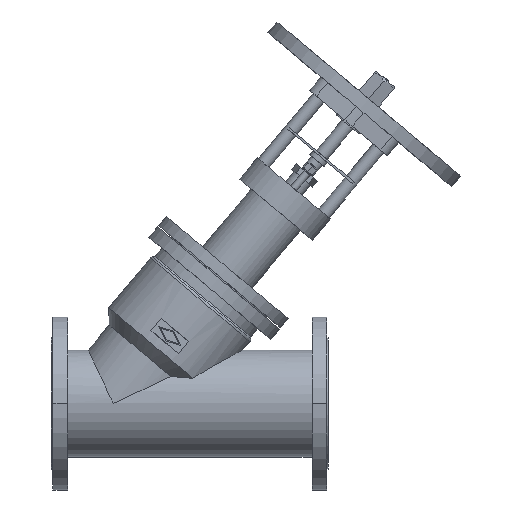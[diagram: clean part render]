
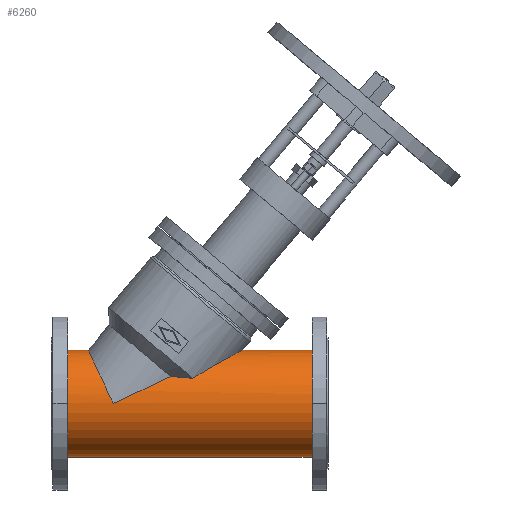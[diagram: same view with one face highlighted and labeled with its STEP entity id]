
A CAD part, top view. The second image highlights one B-rep face of the part: STEP entity #6260.
In plain terms, the highlighted cylindrical face has radius 116 mm (diameter 232 mm), a partial arc.
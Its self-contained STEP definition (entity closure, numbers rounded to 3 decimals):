
#110=CARTESIAN_POINT('',(306.433,54.608,
102.342));
#120=VERTEX_POINT('',#110);
#170=CARTESIAN_POINT('',(306.433,54.608,
102.342));
#180=CARTESIAN_POINT('',(301.494,54.783,
102.249));
#190=CARTESIAN_POINT('',(296.518,55.013,
102.126));
#200=CARTESIAN_POINT('',(284.08,55.75,
101.726));
#210=CARTESIAN_POINT('',(276.598,56.337,
101.405));
#220=CARTESIAN_POINT('',(265.761,57.466,
100.766));
#230=CARTESIAN_POINT('',(262.379,57.858,
100.542));
#240=CARTESIAN_POINT('',(259.01,58.293,
100.289));
#250=B_SPLINE_CURVE_WITH_KNOTS('',3,(#170,#180,#190,#200,#210,#220,#230,
#240),.UNSPECIFIED.,.F.,.F.,(4,2,2,4),(100.64,114.789
,135.904,145.514),.UNSPECIFIED.);
#260=CARTESIAN_POINT('',(259.01,58.293,
100.289));
#270=VERTEX_POINT('',#260);
#280=EDGE_CURVE('',#120,#270,#250,.T.);
#690=CARTESIAN_POINT('',(306.433,54.608,
102.342));
#700=CARTESIAN_POINT('',(310.314,57.074,
101.027));
#710=CARTESIAN_POINT('',(314.199,59.489,
99.624));
#720=CARTESIAN_POINT('',(323.768,65.335,
95.939));
#730=CARTESIAN_POINT('',(329.432,68.707,
93.555));
#740=CARTESIAN_POINT('',(340.574,75.218,
88.405));
#750=CARTESIAN_POINT('',(346.05,78.357,
85.639));
#760=CARTESIAN_POINT('',(356.7,84.377,
79.714));
#770=CARTESIAN_POINT('',(361.873,87.258,
76.556));
#780=CARTESIAN_POINT('',(369.806,91.632,
71.178));
#790=CARTESIAN_POINT('',(372.798,93.271,
69.025));
#800=CARTESIAN_POINT('',(378.719,96.495,
64.44));
#810=CARTESIAN_POINT('',(381.648,98.08,
62.009));
#820=CARTESIAN_POINT('',(387.333,101.144,
56.876));
#830=CARTESIAN_POINT('',(390.09,102.621,
54.174));
#840=CARTESIAN_POINT('',(395.328,105.418,
48.509));
#850=CARTESIAN_POINT('',(397.809,106.736,
45.545));
#860=CARTESIAN_POINT('',(402.391,109.164,
39.372));
#870=CARTESIAN_POINT('',(404.494,110.274,
36.161));
#880=CARTESIAN_POINT('',(408.221,112.238,
29.507));
#890=CARTESIAN_POINT('',(409.847,113.092,
26.064));
#900=CARTESIAN_POINT('',(412.524,114.496,
18.965));
#910=CARTESIAN_POINT('',(413.577,115.047,
15.308));
#920=CARTESIAN_POINT('',(415.014,115.799,
7.798));
#930=CARTESIAN_POINT('',(415.398,116.,3.944));
#940=CARTESIAN_POINT('',(415.398,116.,-3.944));
#950=CARTESIAN_POINT('',(415.014,115.799,
-7.798));
#960=CARTESIAN_POINT('',(413.577,115.047,
-15.308));
#970=CARTESIAN_POINT('',(412.524,114.496,
-18.965));
#980=CARTESIAN_POINT('',(409.847,113.092,
-26.064));
#990=CARTESIAN_POINT('',(408.221,112.238,
-29.507));
#1000=CARTESIAN_POINT('',(404.494,110.274,
-36.161));
#1010=CARTESIAN_POINT('',(402.391,109.164,
-39.372));
#1020=CARTESIAN_POINT('',(397.809,106.736,
-45.545));
#1030=CARTESIAN_POINT('',(395.328,105.418,
-48.509));
#1040=CARTESIAN_POINT('',(390.09,102.621,
-54.174));
#1050=CARTESIAN_POINT('',(387.333,101.144,
-56.876));
#1060=CARTESIAN_POINT('',(381.648,98.08,
-62.009));
#1070=CARTESIAN_POINT('',(378.719,96.495,
-64.44));
#1080=CARTESIAN_POINT('',(372.798,93.271,
-69.025));
#1090=CARTESIAN_POINT('',(369.806,91.632,
-71.178));
#1100=CARTESIAN_POINT('',(361.873,87.258,
-76.556));
#1110=CARTESIAN_POINT('',(356.7,84.377,
-79.714));
#1120=CARTESIAN_POINT('',(346.05,78.357,
-85.639));
#1130=CARTESIAN_POINT('',(340.574,75.218,
-88.405));
#1140=CARTESIAN_POINT('',(329.432,68.707,
-93.555));
#1150=CARTESIAN_POINT('',(323.768,65.335,
-95.939));
#1160=CARTESIAN_POINT('',(314.199,59.489,
-99.624));
#1170=CARTESIAN_POINT('',(310.314,57.074,
-101.027));
#1180=CARTESIAN_POINT('',(306.433,54.608,
-102.342));
#1190=B_SPLINE_CURVE_WITH_KNOTS('',3,(#690,#700,#710,#720,#730,#740,#750
,#760,#770,#780,#790,#800,#810,#820,#830,#840,#850,#860,#870,#880,#890,
#900,#910,#920,#930,#940,#950,#960,#970,#980,#990,#1000,#1010,#1020,
#1030,#1040,#1050,#1060,#1070,#1080,#1090,#1100,#1110,#1120,#1130,#1140,
#1150,#1160,#1170,#1180),.UNSPECIFIED.,.F.,.F.,(4,2,2,2,2,2,2,2,2,2,2,2,
2,2,2,2,2,2,2,2,2,2,2,2,4),(447.301,460.726,
480.498,500.269,520.04,531.872,
543.704,555.537,567.369,579.201,
591.033,602.866,614.698,626.53,
638.362,650.195,662.027,673.859,
685.691,697.524,709.356,729.127,
748.898,768.669,782.095),.UNSPECIFIED.);
#1200=CARTESIAN_POINT('',(415.398,116.,0.));
#1210=VERTEX_POINT('',#1200);
#3420=CARTESIAN_POINT('',(134.,0.,0.));
#3430=DIRECTION('',(-0.423,0.906,0.));
#3440=DIRECTION('',(0.906,0.423,
0.));
#3450=AXIS2_PLACEMENT_3D('',#3420,#3430,#3440);
#3460=ELLIPSE('',#3450,274.479,116.);
#3470=CARTESIAN_POINT('',(134.,0.,116.));
#3480=VERTEX_POINT('',#3470);
#3490=EDGE_CURVE('',#3480,#270,#3460,.T.);
#3510=CARTESIAN_POINT('',(134.,0.,0.));
#3520=DIRECTION('',(0.906,0.423,0.));
#3530=DIRECTION('',(-0.423,0.906,
0.));
#3540=AXIS2_PLACEMENT_3D('',#3510,#3520,#3530);
#3550=ELLIPSE('',#3540,127.992,116.);
#3560=CARTESIAN_POINT('',(79.908,116.,0.));
#3570=VERTEX_POINT('',#3560);
#3580=EDGE_CURVE('',#3570,#3480,#3550,.T.);
#5780=CARTESIAN_POINT('',(300.,0.,0.));
#5790=DIRECTION('',(1.,-0.,-0.));
#5800=DIRECTION('',(0.,1.,0.));
#5810=AXIS2_PLACEMENT_3D('',#5780,#5790,#5800);
#5820=CYLINDRICAL_SURFACE('',#5810,116.);
#5830=CARTESIAN_POINT('',(300.,116.,0.));
#5840=DIRECTION('',(1.,-0.,-0.));
#5850=VECTOR('',#5840,1.);
#5860=LINE('',#5830,#5850);
#5870=CARTESIAN_POINT('',(35.,116.,0.));
#5880=VERTEX_POINT('',#5870);
#5890=EDGE_CURVE('',#5880,#3570,#5860,.T.);
#5900=ORIENTED_EDGE('',*,*,#5890,.F.);
#5910=ORIENTED_EDGE('',*,*,#3580,.F.);
#5920=ORIENTED_EDGE('',*,*,#3490,.F.);
#5930=ORIENTED_EDGE('',*,*,#280,.T.);
#5940=EDGE_CURVE('',#120,#1210,#1190,.T.);
#5950=ORIENTED_EDGE('',*,*,#5940,.F.);
#5960=CARTESIAN_POINT('',(565.,116.,0.));
#5970=VERTEX_POINT('',#5960);
#5980=EDGE_CURVE('',#1210,#5970,#5860,.T.);
#5990=ORIENTED_EDGE('',*,*,#5980,.F.);
#6000=CARTESIAN_POINT('',(565.,0.,0.));
#6010=DIRECTION('',(-1.,0.,0.));
#6020=DIRECTION('',(0.,1.,0.));
#6030=AXIS2_PLACEMENT_3D('',#6000,#6010,#6020);
#6040=CIRCLE('',#6030,116.);
#6050=CARTESIAN_POINT('',(565.,-116.,0.));
#6060=VERTEX_POINT('',#6050);
#6070=EDGE_CURVE('',#6060,#5970,#6040,.T.);
#6080=ORIENTED_EDGE('',*,*,#6070,.T.);
#6090=CARTESIAN_POINT('',(300.,-116.,0.));
#6100=DIRECTION('',(1.,-0.,-0.));
#6110=VECTOR('',#6100,1.);
#6120=LINE('',#6090,#6110);
#6130=CARTESIAN_POINT('',(35.,-116.,0.));
#6140=VERTEX_POINT('',#6130);
#6150=EDGE_CURVE('',#6140,#6060,#6120,.T.);
#6160=ORIENTED_EDGE('',*,*,#6150,.T.);
#6170=CARTESIAN_POINT('',(35.,0.,0.));
#6180=DIRECTION('',(-1.,0.,0.));
#6190=DIRECTION('',(0.,1.,0.));
#6200=AXIS2_PLACEMENT_3D('',#6170,#6180,#6190);
#6210=CIRCLE('',#6200,116.);
#6220=EDGE_CURVE('',#6140,#5880,#6210,.T.);
#6230=ORIENTED_EDGE('',*,*,#6220,.F.);
#6240=EDGE_LOOP('',(#6230,#6160,#6080,#5990,#5950,#5930,#5920,#5910,
#5900));
#6250=FACE_OUTER_BOUND('',#6240,.T.);
#6260=ADVANCED_FACE('',(#6250),#5820,.T.);
